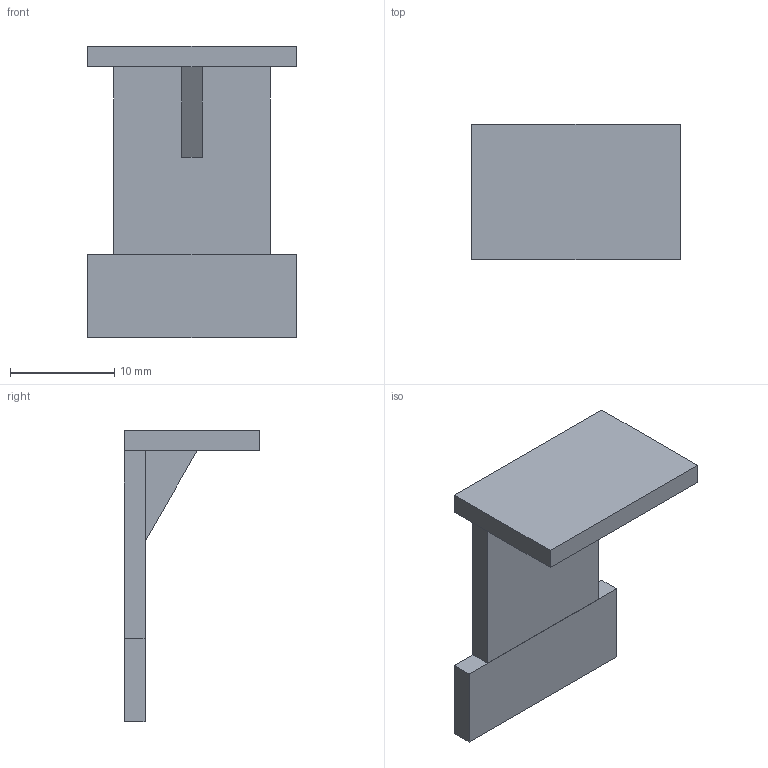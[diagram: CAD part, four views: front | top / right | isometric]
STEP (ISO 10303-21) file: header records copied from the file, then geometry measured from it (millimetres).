
FILE_DESCRIPTION (( 'STEP AP214' ), '1' );
FILE_NAME ('002314.STEP', '2022-02-21T08:11:31', ( '' ), ( '' ), 'SwSTEP 2.0', 'SolidWorks 2021', '' );
FILE_SCHEMA (( 'AUTOMOTIVE_DESIGN' ));
Length unit declared in the file: millimetre
Products named in the file (1): 002314
Bounding box: 20 x 13 x 28 mm (x, y, z)
Volume: 1423.3 mm3; surface area: 1732 mm2
Topology: 2 solids, 2 shells, 19 faces, 45 edges, 30 vertices
Faces by surface type: plane 19
Entity records: 582 total; most frequent: CARTESIAN_POINT 95, ORIENTED_EDGE 90, DIRECTION 85, VECTOR 45, EDGE_CURVE 45, LINE 45, VERTEX_POINT 30, AXIS2_PLACEMENT_3D 20
